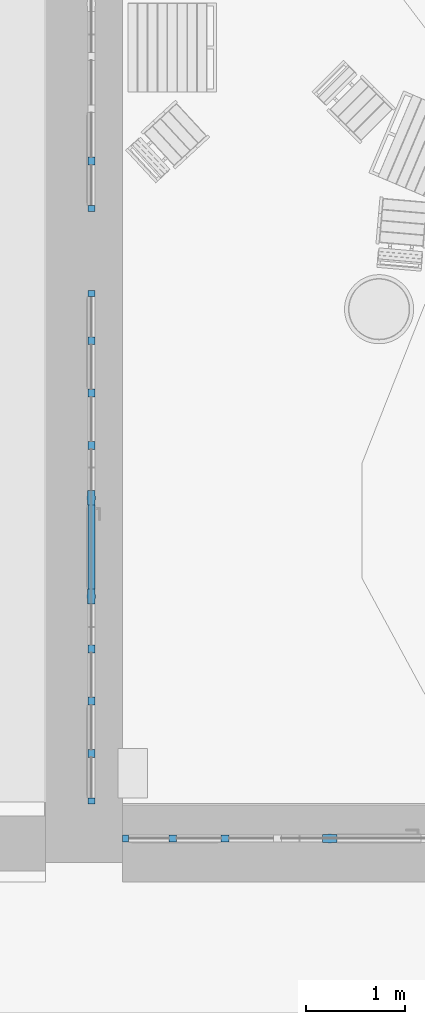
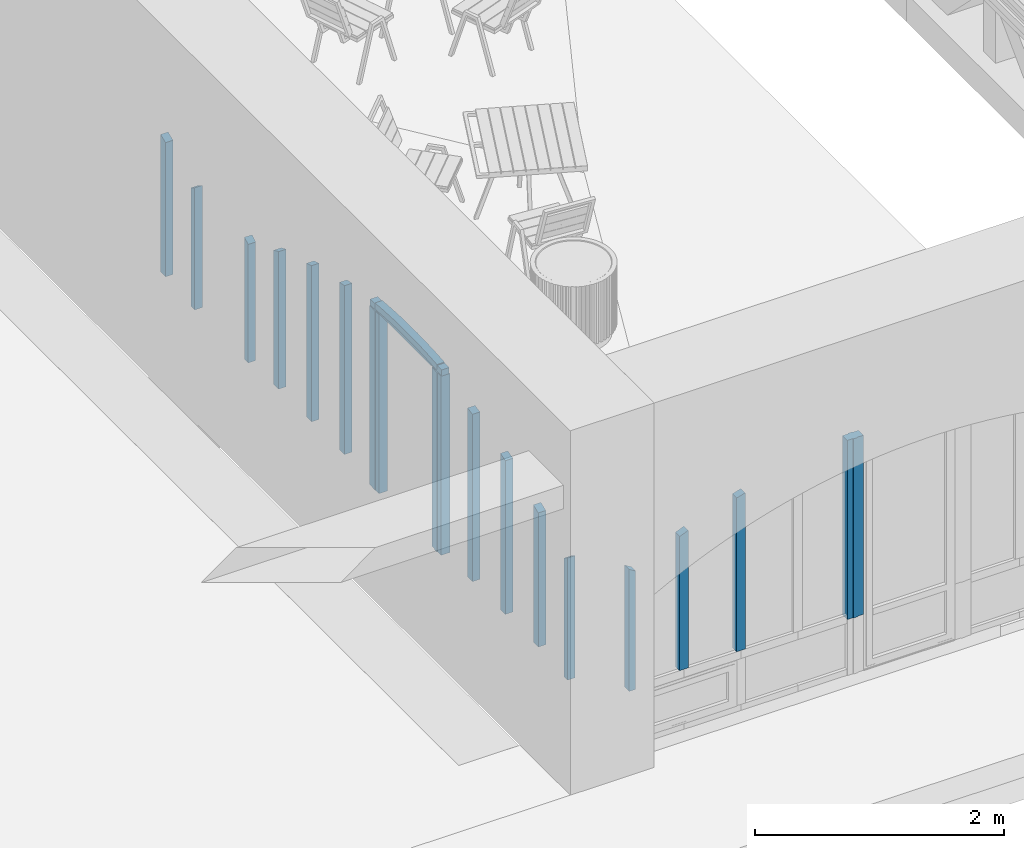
# One storey, part 2 of 88: 18 members, 3 elements without a shape of their own.
"""IFC2X3 building model written with IfcOpenShell, lengths in millimetres."""

from ifc_helpers import new_model, entity, si_unit, converted_unit, derived_unit, direction, frame, frame_2d, origin, place, context, subcontext, project, spatial, polyline, circle_curve, parameter, trimmed, segment, composite_curve, rectangle, outline, extrude, source, transform, mapped, material, type_object, type_shapes, element, aggregate, save


model = new_model("IFC2X3")

# Units and contexts
model_context = context("Model", 3, precision=0.01, world=origin(), true_north=direction((6.123031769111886e-17, 1.0)))
body_context = subcontext(model_context, "Body", "Model", "MODEL_VIEW")
ifc_project = project(units=[si_unit("LENGTHUNIT", "METRE", prefix="MILLI"), si_unit("AREAUNIT", "SQUARE_METRE"), si_unit("VOLUMEUNIT", "CUBIC_METRE"), converted_unit("PLANEANGLEUNIT", "DEGREE", entity("IfcPlaneAngleMeasure", 0.017453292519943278), si_unit("PLANEANGLEUNIT", "RADIAN"), dimensions=[0, 0, 0, 0, 0, 0, 0]), si_unit("MASSUNIT", "GRAM", prefix="KILO"), derived_unit("MASSDENSITYUNIT", [(si_unit("MASSUNIT", "GRAM", prefix="KILO"), 1), (si_unit("LENGTHUNIT", "METRE"), -3)]), derived_unit("IONCONCENTRATIONUNIT", [(si_unit("MASSUNIT", "GRAM", prefix="KILO"), 1), (si_unit("LENGTHUNIT", "METRE"), -3)]), derived_unit("MOMENTOFINERTIAUNIT", [(si_unit("LENGTHUNIT", "METRE"), 4)]), si_unit("TIMEUNIT", "SECOND"), si_unit("FREQUENCYUNIT", "HERTZ"), si_unit("THERMODYNAMICTEMPERATUREUNIT", "DEGREE_CELSIUS"), derived_unit("THERMALTRANSMITTANCEUNIT", [(si_unit("MASSUNIT", "GRAM", prefix="KILO"), 1), (si_unit("THERMODYNAMICTEMPERATUREUNIT", "KELVIN"), -1), (si_unit("TIMEUNIT", "SECOND"), -3)]), derived_unit("THERMALCONDUCTANCEUNIT", [(si_unit("MASSUNIT", "GRAM", prefix="KILO"), 1), (si_unit("THERMODYNAMICTEMPERATUREUNIT", "KELVIN"), -1), (si_unit("TIMEUNIT", "SECOND"), -3), (si_unit("LENGTHUNIT", "METRE"), 1)]), derived_unit("VOLUMETRICFLOWRATEUNIT", [(si_unit("LENGTHUNIT", "METRE", prefix="DECI"), 3), (si_unit("TIMEUNIT", "SECOND"), -1)]), derived_unit("MASSFLOWRATEUNIT", [(si_unit("MASSUNIT", "GRAM", prefix="KILO"), 1), (si_unit("TIMEUNIT", "SECOND"), -1)]), derived_unit("ROTATIONALFREQUENCYUNIT", [(si_unit("TIMEUNIT", "SECOND"), -1)]), si_unit("ELECTRICCURRENTUNIT", "AMPERE"), si_unit("ELECTRICVOLTAGEUNIT", "VOLT"), si_unit("POWERUNIT", "WATT"), si_unit("FORCEUNIT", "NEWTON", prefix="KILO"), si_unit("ILLUMINANCEUNIT", "LUX"), si_unit("LUMINOUSFLUXUNIT", "LUMEN"), si_unit("LUMINOUSINTENSITYUNIT", "CANDELA"), si_unit("ENERGYUNIT", "JOULE"), derived_unit("USERDEFINED", [(si_unit("MASSUNIT", "GRAM", prefix="KILO"), -1), (si_unit("LENGTHUNIT", "METRE"), -2), (si_unit("TIMEUNIT", "SECOND"), 3), (si_unit("LUMINOUSFLUXUNIT", "LUMEN"), 1)]), derived_unit("USERDEFINED", [(si_unit("MASSUNIT", "GRAM", prefix="KILO"), 1), (si_unit("TIMEUNIT", "SECOND"), -3), (si_unit("LENGTHUNIT", "METRE"), 3), (si_unit("ELECTRICCURRENTUNIT", "AMPERE"), -2)]), derived_unit("SOUNDPOWERUNIT", [(si_unit("MASSUNIT", "GRAM", prefix="KILO"), 1), (si_unit("TIMEUNIT", "SECOND"), -3), (si_unit("LENGTHUNIT", "METRE"), 2)]), derived_unit("SOUNDPRESSUREUNIT", [(si_unit("MASSUNIT", "GRAM", prefix="KILO"), 1), (si_unit("LENGTHUNIT", "METRE"), -1), (si_unit("TIMEUNIT", "SECOND"), -2)]), derived_unit("LINEARVELOCITYUNIT", [(si_unit("LENGTHUNIT", "METRE"), 1), (si_unit("TIMEUNIT", "SECOND"), -1)]), si_unit("PRESSUREUNIT", "PASCAL"), derived_unit("USERDEFINED", [(si_unit("MASSUNIT", "GRAM", prefix="KILO"), 1), (si_unit("LENGTHUNIT", "METRE"), -2), (si_unit("TIMEUNIT", "SECOND"), -2)]), derived_unit("LINEARFORCEUNIT", [(si_unit("MASSUNIT", "GRAM", prefix="KILO"), 1), (si_unit("TIMEUNIT", "SECOND"), -2)]), derived_unit("PLANARFORCEUNIT", [(si_unit("MASSUNIT", "GRAM", prefix="KILO"), 1), (si_unit("LENGTHUNIT", "METRE"), -1), (si_unit("TIMEUNIT", "SECOND"), -2)]), derived_unit("SPECIFICHEATCAPACITYUNIT", [(si_unit("THERMODYNAMICTEMPERATUREUNIT", "KELVIN"), -1), (si_unit("LENGTHUNIT", "METRE"), 2), (si_unit("TIMEUNIT", "SECOND"), -2)]), derived_unit("HEATFLUXDENSITYUNIT", [(si_unit("MASSUNIT", "GRAM", prefix="KILO"), 1), (si_unit("TIMEUNIT", "SECOND"), -3)]), derived_unit("HEATINGVALUEUNIT", [(si_unit("LENGTHUNIT", "METRE"), 2), (si_unit("TIMEUNIT", "SECOND"), -2)]), derived_unit("VAPORPERMEABILITYUNIT", [(si_unit("LENGTHUNIT", "METRE"), -1), (si_unit("TIMEUNIT", "SECOND"), 1)]), derived_unit("DYNAMICVISCOSITYUNIT", [(si_unit("MASSUNIT", "GRAM", prefix="KILO"), 1), (si_unit("TIMEUNIT", "SECOND"), -1), (si_unit("LENGTHUNIT", "METRE"), -1)]), derived_unit("THERMALEXPANSIONCOEFFICIENTUNIT", [(si_unit("THERMODYNAMICTEMPERATUREUNIT", "KELVIN"), -1)]), derived_unit("MODULUSOFELASTICITYUNIT", [(si_unit("MASSUNIT", "GRAM", prefix="KILO"), 1), (si_unit("LENGTHUNIT", "METRE"), -1), (si_unit("TIMEUNIT", "SECOND"), -2)]), derived_unit("ISOTHERMALMOISTURECAPACITYUNIT", [(si_unit("MASSUNIT", "GRAM", prefix="KILO"), -1), (si_unit("LENGTHUNIT", "METRE"), 3)]), derived_unit("MOISTUREDIFFUSIVITYUNIT", [(si_unit("TIMEUNIT", "SECOND"), -1), (si_unit("LENGTHUNIT", "METRE"), 2)]), derived_unit("MASSPERLENGTHUNIT", [(si_unit("MASSUNIT", "GRAM", prefix="KILO"), 1), (si_unit("LENGTHUNIT", "METRE"), -1)]), derived_unit("THERMALRESISTANCEUNIT", [(si_unit("MASSUNIT", "GRAM", prefix="KILO"), -1), (si_unit("TIMEUNIT", "SECOND"), 3), (si_unit("THERMODYNAMICTEMPERATUREUNIT", "KELVIN"), 1)]), derived_unit("ACCELERATIONUNIT", [(si_unit("LENGTHUNIT", "METRE"), 1), (si_unit("TIMEUNIT", "SECOND"), -2)]), derived_unit("ANGULARVELOCITYUNIT", [(si_unit("TIMEUNIT", "SECOND"), -1), (si_unit("PLANEANGLEUNIT", "RADIAN"), 1)]), derived_unit("LINEARSTIFFNESSUNIT", [(si_unit("MASSUNIT", "GRAM", prefix="KILO"), 1), (si_unit("TIMEUNIT", "SECOND"), -2)]), derived_unit("WARPINGCONSTANTUNIT", [(si_unit("LENGTHUNIT", "METRE"), 6)]), derived_unit("LINEARMOMENTUNIT", [(si_unit("MASSUNIT", "GRAM", prefix="KILO"), 1), (si_unit("LENGTHUNIT", "METRE"), 1), (si_unit("TIMEUNIT", "SECOND"), -2)]), derived_unit("TORQUEUNIT", [(si_unit("MASSUNIT", "GRAM", prefix="KILO"), 1), (si_unit("LENGTHUNIT", "METRE"), 2), (si_unit("TIMEUNIT", "SECOND"), -2)])], contexts=[model_context])

# Site, building, storey
site_placement = place(None, origin())
site = spatial("IfcSite", under=ifc_project, at=site_placement, Name="Default", CompositionType="ELEMENT")
building_placement = place(site_placement, origin())
building = spatial("IfcBuilding", under=site, at=building_placement, Name="Eesti Rahvusraamatukogu hoone renoveerimise projekteerimistööd", CompositionType="ELEMENT")
storey_placement = place(building_placement, origin())
storey = spatial("IfcBuildingStorey", under=building, at=storey_placement, Name="1. korrus", CompositionType="ELEMENT", Elevation=0.0)

# Curtain wall, members
curtain_wall_type_1 = type_object("IfcCurtainWallType", Name="Curtain Wall:Ak-05", PredefinedType="NOTDEFINED")
curtain_wall_1_placement = place(storey_placement, origin())
curtain_wall_1 = element("IfcCurtainWall", 1, at=curtain_wall_1_placement, inside=storey, type_object=curtain_wall_type_1, Name="Curtain Wall:Ak-05", ObjectType="Curtain Wall:Ak-05")
ifc_material = material(Name="LUMION_dark steel window frames")
member_type_1 = type_object("IfcMemberType", Name="Rectangular Mullion:NEW 60x70mm", PredefinedType="MULLION", material=ifc_material)
shared_shape_1 = source(origin(), body_context, "Body", "SweptSolid", [
    extrude(outline(composite_curve([segment(polyline([(-75.01710683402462, -495.2424237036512), (-15.017106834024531, -495.2424237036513)]), True, "CONTINUOUS"), segment(trimmed(circle_curve(frame_2d((5448.26345993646, -495.24242370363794), x_axis=(-0.9836101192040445, 0.1803084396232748)), 5463.280566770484), [parameter(3.5622212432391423e-13)], [parameter(10.387726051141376)], True, "PARAMETER"), False, "CONTINUOUS"), segment(polyline([(74.52541041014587, 489.83317051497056), (15.508803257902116, 500.65167689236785)]), True, "CONTINUOUS"), segment(trimmed(circle_curve(frame_2d((5448.26345993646, -495.24242370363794), x_axis=(-0.9836101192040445, 0.1803084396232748)), 5523.280566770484), [parameter(3.5622212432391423e-13)], [parameter(10.387726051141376)], True, "PARAMETER"), True, "CONTINUOUS")], self_intersect=False)), frame((-75.01710683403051, -35.0, -495.2424237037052), z_axis=(0.0, 1.0, 0.0), x_axis=(-0.9836101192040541, 0.0, 0.18030843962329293)), (0.0, 0.0, 1.0), 69.99999999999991),
])
type_shapes(member_type_1, [shared_shape_1])
member_1_placement = place(curtain_wall_1_placement, frame((-42905.0, 2890.0, 2327.3219656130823), z_axis=(0.0, -0.9958941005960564, -0.09052591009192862), x_axis=(0.0, -0.09052591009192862, 0.9958941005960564)))
member_1 = element("IfcMember", 2, at=member_1_placement, type_object=member_type_1, material=ifc_material, Name="Rectangular Mullion:NEW 60x70mm", ObjectType="Rectangular Mullion:NEW 60x70mm", context=body_context, shape_type="MappedRepresentation", body=[
    mapped(shared_shape_1, transform((0.0, 0.0, 0.0), scale=1.0)),
])
member_type_2 = type_object("IfcMemberType", Name="Rectangular Mullion:NEW 150x90mm", PredefinedType="MULLION", material=ifc_material)
shared_shape_2 = source(origin(), body_context, "Body", "SweptSolid", [
    extrude(outline(polyline([(40.0, -20.0), (45.0, -20.0), (45.0, 20.0), (40.0, 20.0), (40.0, 75.0), (-40.0, 75.0), (-40.0, 20.0), (-45.0, 20.0), (-45.0, -20.0), (-40.0, -20.0), (-40.0, -75.0), (40.0, -75.0), (40.0, -20.0)])), frame((0.0, 0.0, -1760.0), z_axis=(0.0, 0.0, 1.0), x_axis=(0.0, -1.0, 0.0)), (0.0, 0.0, 1.0), 1759.9999999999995),
])
type_shapes(member_type_2, [shared_shape_2])
member_2_placement = place(curtain_wall_1_placement, frame((-42905.0, 3890.0, 500.0), z_axis=(0.0, 0.0, -1.0), x_axis=(0.0, -1.0, 0.0)))
member_2 = element("IfcMember", 3, at=member_2_placement, type_object=member_type_2, material=ifc_material, Name="Rectangular Mullion:NEW 150x90mm", ObjectType="Rectangular Mullion:NEW 150x90mm", context=body_context, shape_type="MappedRepresentation", body=[
    mapped(shared_shape_2, transform((0.0, 0.0, 0.0), scale=1.0)),
])
member_3_placement = place(curtain_wall_1_placement, frame((-42905.0, 2890.0, 500.0), z_axis=(0.0, 0.0, -1.0), x_axis=(0.0, -1.0, 0.0)))
member_3 = element("IfcMember", 4, at=member_3_placement, type_object=member_type_2, material=ifc_material, Name="Rectangular Mullion:NEW 150x90mm", ObjectType="Rectangular Mullion:NEW 150x90mm", context=body_context, shape_type="MappedRepresentation", body=[
    mapped(shared_shape_2, transform((0.0, 0.0, 0.0), scale=1.0)),
])

# Curtain wall, member
curtain_wall_type_2 = type_object("IfcCurtainWallType", Name="Curtain Wall:Ak-05*", PredefinedType="NOTDEFINED")
curtain_wall_2_placement = place(storey_placement, origin())
curtain_wall_2 = element("IfcCurtainWall", 5, at=curtain_wall_2_placement, inside=storey, type_object=curtain_wall_type_2, Name="Curtain Wall:Ak-05*", ObjectType="Curtain Wall:Ak-05*")
member_type_3 = type_object("IfcMemberType", Name="Rectangular Mullion:NEW 60x70mm", PredefinedType="MULLION", material=ifc_material)
shared_shape_3 = source(origin(), body_context, "Body", "SweptSolid", [
    extrude(outline(polyline([(-590.8870214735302, -30.0), (608.8836344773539, -30.0), (572.8904084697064, 30.0), (-590.8870214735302, 30.0), (-590.8870214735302, -30.0)])), frame((-30.0, -35.0, -590.8870214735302), z_axis=(0.0, 1.0, 0.0), x_axis=(0.0, 0.0, -1.0)), (0.0, 0.0, 1.0), 70.00000000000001),
])
type_shapes(member_type_3, [shared_shape_3])
member_4_placement = place(curtain_wall_2_placement, frame((-42905.0, 6790.0, 500.0), z_axis=(0.0, 0.0, -1.0), x_axis=(0.0, -1.0, 0.0)))
member_4 = element("IfcMember", 6, at=member_4_placement, type_object=member_type_3, material=ifc_material, Name="Rectangular Mullion:NEW 60x70mm", ObjectType="Rectangular Mullion:NEW 60x70mm", context=body_context, shape_type="MappedRepresentation", body=[
    mapped(shared_shape_3, transform((0.0, 0.0, 0.0), scale=1.0)),
])

# Member
member_5_placement = place(curtain_wall_1_placement, frame((-42905.0, 790.0, 500.0), z_axis=(0.0, 0.0, -1.0), x_axis=(0.0, -1.0, 0.0)))
member_5 = element("IfcMember", 7, at=member_5_placement, type_object=member_type_3, material=ifc_material, Name="Rectangular Mullion:NEW 60x70mm", ObjectType="Rectangular Mullion:NEW 60x70mm", context=body_context, shape_type="MappedRepresentation", body=[
    mapped(shared_shape_3, transform((0.0, 0.0, 0.0), scale=1.0)),
])

member_type_4 = type_object("IfcMemberType", Name="Rectangular Mullion:NEW 60x70mm", PredefinedType="MULLION", material=ifc_material)
shared_shape_4 = source(origin(), body_context, "Body", "SweptSolid", [
    extrude(outline(polyline([(-608.8836344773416, -30.0), (590.8870214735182, -30.0), (590.8870214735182, 30.0), (-572.8904084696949, 30.0), (-608.8836344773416, -30.0)])), frame((-30.0, -35.0, -608.8836344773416), z_axis=(0.0, 1.0, 0.0), x_axis=(0.0, 0.0, -1.0)), (0.0, 0.0, 1.0), 70.00000000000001),
])
type_shapes(member_type_4, [shared_shape_4])
member_6_placement = place(curtain_wall_1_placement, frame((-42905.0, 5990.0, 1699.7706559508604), z_axis=(0.0, 0.0, 1.0), x_axis=(0.0, 1.0, 0.0)))
member_6 = element("IfcMember", 8, at=member_6_placement, type_object=member_type_4, material=ifc_material, Name="Rectangular Mullion:NEW 60x70mm", ObjectType="Rectangular Mullion:NEW 60x70mm", context=body_context, shape_type="MappedRepresentation", body=[
    mapped(shared_shape_4, transform((0.0, 0.0, 0.0), scale=1.0)),
])

member_type_5 = type_object("IfcMemberType", Name="Rectangular Mullion:NEW 60x70mm", PredefinedType="MULLION", material=ifc_material)
shared_shape_5 = source(origin(), body_context, "Body", "SweptSolid", [
    extrude(rectangle(XDim=60.0, YDim=70.0, at=frame_2d((0.0, -3.552713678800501e-15), x_axis=(1.0, 0.0))), frame((0.0, 0.0, -1150.0), z_axis=(0.0, 0.0, 1.0), x_axis=(-1.0, 0.0, 0.0)), (0.0, 0.0, 1.0), 1149.9999999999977),
])
type_shapes(member_type_5, [shared_shape_5])
member_7_placement = place(curtain_wall_1_placement, frame((-42905.0, 2815.0, 2290.0), z_axis=(0.0, -1.0, 0.0), x_axis=(0.0, 0.0, 1.0)))
member_7 = element("IfcMember", 9, at=member_7_placement, type_object=member_type_5, material=ifc_material, Name="Rectangular Mullion:NEW 60x70mm", ObjectType="Rectangular Mullion:NEW 60x70mm", context=body_context, shape_type="MappedRepresentation", body=[
    mapped(shared_shape_5, transform((0.0, 0.0, 0.0), scale=1.0)),
])

member_type_6 = type_object("IfcMemberType", Name="Rectangular Mullion:NEW 80x70mm", PredefinedType="MULLION", material=ifc_material)
shared_shape_6 = source(origin(), body_context, "Body", "SweptSolid", [
    extrude(outline(composite_curve([segment(polyline([(-802.4490834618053, -44.54077965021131), (515.2279674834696, -44.54077965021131)]), True, "CONTINUOUS"), segment(trimmed(circle_curve(frame_2d((-4515.729650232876, 2085.4592203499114), x_axis=(0.8822747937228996, -0.4707347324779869)), 5463.280566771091), [parameter(5.135238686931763)], [parameter(5.847495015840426)], True, "PARAMETER"), True, "CONTINUOUS"), segment(trimmed(circle_curve(frame_2d((-4515.729650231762, 2085.4592203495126), x_axis=(0.9256428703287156, -0.3783983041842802)), 5463.280566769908), [parameter(0.0)], [parameter(0.1958264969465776)], True, "PARAMETER"), True, "CONTINUOUS"), segment(polyline([(548.3531444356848, 35.45922034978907), (-802.4490834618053, 35.45922034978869)]), True, "CONTINUOUS"), segment(polyline([(-802.4490834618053, 35.45922034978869), (-802.4490834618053, -44.54077965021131)]), True, "CONTINUOUS")], self_intersect=False)), frame((-4.540779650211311, -35.0, -802.4490834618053), z_axis=(0.0, 1.0, 0.0), x_axis=(0.0, 0.0, -1.0)), (0.0, 0.0, 1.0), 69.99999999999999),
])
type_shapes(member_type_6, [shared_shape_6])
member_8_placement = place(curtain_wall_2_placement, frame((-42905.0, 7300.0, 540.0), z_axis=(0.0, 0.0, -1.0), x_axis=(0.0, -1.0, 0.0)))
member_8 = element("IfcMember", 10, at=member_8_placement, type_object=member_type_6, material=ifc_material, Name="Rectangular Mullion:NEW 80x70mm", ObjectType="Rectangular Mullion:NEW 80x70mm", context=body_context, shape_type="MappedRepresentation", body=[
    mapped(shared_shape_6, transform((0.0, 0.0, 0.0), scale=1.0)),
])

aggregate(curtain_wall_2, [member_4, member_8])

member_9_placement = place(curtain_wall_1_placement, frame((-42905.0, 1300.0, 540.0), z_axis=(0.0, 0.0, -1.0), x_axis=(0.0, -1.0, 0.0)))
member_9 = element("IfcMember", 11, at=member_9_placement, type_object=member_type_6, material=ifc_material, Name="Rectangular Mullion:NEW 80x70mm", ObjectType="Rectangular Mullion:NEW 80x70mm", context=body_context, shape_type="MappedRepresentation", body=[
    mapped(shared_shape_6, transform((0.0, 0.0, 0.0), scale=1.0)),
])

member_type_7 = type_object("IfcMemberType", Name="Rectangular Mullion:NEW 80x70mm", PredefinedType="MULLION", material=ifc_material)
shared_shape_7 = source(origin(), body_context, "Body", "SweptSolid", [
    extrude(outline(composite_curve([segment(polyline([(-914.4623251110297, -43.389290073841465), (595.9947117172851, -43.389290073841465)]), True, "CONTINUOUS"), segment(trimmed(circle_curve(frame_2d((-4627.7428918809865, 1556.6107099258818), x_axis=(0.9256428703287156, -0.37839830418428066)), 5463.280566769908), [parameter(5.204987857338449)], [parameter(5.828569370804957)], True, "PARAMETER"), True, "CONTINUOUS"), segment(trimmed(circle_curve(frame_2d((-4627.74289188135, 1556.6107099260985), x_axis=(0.9592847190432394, -0.28244083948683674)), 5463.280566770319), [parameter(0.0)], [parameter(0.25187197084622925)], True, "PARAMETER"), True, "CONTINUOUS"), segment(polyline([(619.8312668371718, 36.61070992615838), (-914.4623251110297, 36.610709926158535)]), True, "CONTINUOUS"), segment(polyline([(-914.4623251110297, 36.610709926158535), (-914.4623251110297, -43.389290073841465)]), True, "CONTINUOUS")], self_intersect=False)), frame((-3.389290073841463, -35.0, -914.4623251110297), z_axis=(0.0, 1.0, 0.0), x_axis=(0.0, 0.0, -1.0)), (0.0, 0.0, 1.0), 69.99999999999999),
])
type_shapes(member_type_7, [shared_shape_7])
member_10_placement = place(curtain_wall_1_placement, frame((-42905.0, 1830.0, 540.0), z_axis=(0.0, 0.0, -1.0), x_axis=(0.0, -1.0, 0.0)))
member_10 = element("IfcMember", 12, at=member_10_placement, type_object=member_type_7, material=ifc_material, Name="Rectangular Mullion:NEW 80x70mm", ObjectType="Rectangular Mullion:NEW 80x70mm", context=body_context, shape_type="MappedRepresentation", body=[
    mapped(shared_shape_7, transform((0.0, 0.0, 0.0), scale=1.0)),
])

member_type_8 = type_object("IfcMemberType", Name="Rectangular Mullion:NEW 80x70mm", PredefinedType="MULLION", material=ifc_material)
shared_shape_8 = source(origin(), body_context, "Body", "SweptSolid", [
    extrude(outline(composite_curve([segment(polyline([(-991.582057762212, -42.23780049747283), (652.61201854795, -42.23780049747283)]), True, "CONTINUOUS"), segment(trimmed(circle_curve(frame_2d((-4704.862624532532, 1027.7621995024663), x_axis=(0.9592847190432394, -0.28244083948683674)), 5463.280566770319), [parameter(5.111376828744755)], [parameter(5.658307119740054)], True, "PARAMETER"), True, "CONTINUOUS"), segment(trimmed(circle_curve(frame_2d((-4704.862624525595, 1027.7621995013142), x_axis=(0.9824581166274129, -0.18648337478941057)), 5463.2805667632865), [parameter(0.0)], [parameter(0.3073932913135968)], True, "PARAMETER"), True, "CONTINUOUS"), segment(polyline([(667.9703852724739, 37.76219950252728), (-991.582057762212, 37.76219950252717)]), True, "CONTINUOUS"), segment(polyline([(-991.582057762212, 37.76219950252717), (-991.582057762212, -42.23780049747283)]), True, "CONTINUOUS")], self_intersect=False)), frame((-2.237800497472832, -35.0, -991.582057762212), z_axis=(0.0, 1.0, 0.0), x_axis=(0.0, 0.0, -1.0)), (0.0, 0.0, 1.0), 70.00000000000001),
])
type_shapes(member_type_8, [shared_shape_8])
member_11_placement = place(curtain_wall_1_placement, frame((-42905.0, 2360.0, 540.0), z_axis=(0.0, 0.0, -1.0), x_axis=(0.0, -1.0, 0.0)))
member_11 = element("IfcMember", 13, at=member_11_placement, type_object=member_type_8, material=ifc_material, Name="Rectangular Mullion:NEW 80x70mm", ObjectType="Rectangular Mullion:NEW 80x70mm", context=body_context, shape_type="MappedRepresentation", body=[
    mapped(shared_shape_8, transform((0.0, 0.0, 0.0), scale=1.0)),
])

member_type_9 = type_object("IfcMemberType", Name="Rectangular Mullion:NEW 80x70mm", PredefinedType="MULLION", material=ifc_material)
shared_shape_9 = source(origin(), body_context, "Body", "SweptSolid", [
    extrude(outline(composite_curve([segment(polyline([(-991.5820577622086, -37.76219950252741), (667.9703852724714, -37.76219950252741)]), True, "CONTINUOUS"), segment(trimmed(circle_curve(frame_2d((-4704.862624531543, -1027.7621995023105), x_axis=(0.9891368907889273, 0.14699731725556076)), 5463.280566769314), [parameter(1.9872788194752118)], [parameter(2.294672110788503)], True, "PARAMETER"), True, "CONTINUOUS"), segment(trimmed(circle_curve(frame_2d((-4704.862624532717, -1027.7621995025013), x_axis=(0.9824581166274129, 0.18648337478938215)), 5463.280566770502), [parameter(0.0)], [parameter(0.546930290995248)], True, "PARAMETER"), True, "CONTINUOUS"), segment(polyline([(652.6120185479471, 42.23780049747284), (-991.5820577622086, 42.23780049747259)]), True, "CONTINUOUS"), segment(polyline([(-991.5820577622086, 42.23780049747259), (-991.5820577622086, -37.76219950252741)]), True, "CONTINUOUS")], self_intersect=False)), frame((2.237800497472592, -35.0, -991.5820577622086), z_axis=(0.0, 1.0, 0.0), x_axis=(0.0, 0.0, -1.0)), (0.0, 0.0, 1.0), 69.99999999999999),
])
type_shapes(member_type_9, [shared_shape_9])
member_12_placement = place(curtain_wall_1_placement, frame((-42905.0, 4420.0, 540.0), z_axis=(0.0, 0.0, -1.0), x_axis=(0.0, -1.0, 0.0)))
member_12 = element("IfcMember", 14, at=member_12_placement, type_object=member_type_9, material=ifc_material, Name="Rectangular Mullion:NEW 80x70mm", ObjectType="Rectangular Mullion:NEW 80x70mm", context=body_context, shape_type="MappedRepresentation", body=[
    mapped(shared_shape_9, transform((0.0, 0.0, 0.0), scale=1.0)),
])

member_type_10 = type_object("IfcMemberType", Name="Rectangular Mullion:NEW 80x70mm", PredefinedType="MULLION", material=ifc_material)
shared_shape_10 = source(origin(), body_context, "Body", "SweptSolid", [
    extrude(outline(composite_curve([segment(polyline([(-914.4623251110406, -36.610709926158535), (619.8312668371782, -36.610709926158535)]), True, "CONTINUOUS"), segment(trimmed(circle_curve(frame_2d((-4627.742891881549, -1556.6107099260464), x_axis=(0.9824581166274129, 0.18648337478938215)), 5463.280566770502), [parameter(5.406435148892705)], [parameter(5.658307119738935)], True, "PARAMETER"), True, "CONTINUOUS"), segment(trimmed(circle_curve(frame_2d((-4627.742891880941, -1556.6107099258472), x_axis=(0.9592847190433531, 0.28244083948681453)), 5463.280566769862), [parameter(0.0)], [parameter(0.6235815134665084)], True, "PARAMETER"), True, "CONTINUOUS"), segment(polyline([(595.9947117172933, 43.38929007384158), (-914.4623251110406, 43.389290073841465)]), True, "CONTINUOUS"), segment(polyline([(-914.4623251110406, 43.389290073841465), (-914.4623251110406, -36.610709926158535)]), True, "CONTINUOUS")], self_intersect=False)), frame((3.389290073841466, -35.0, -914.4623251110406), z_axis=(0.0, 1.0, 0.0), x_axis=(0.0, 0.0, -1.0)), (0.0, 0.0, 1.0), 69.99999999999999),
])
type_shapes(member_type_10, [shared_shape_10])
member_13_placement = place(curtain_wall_1_placement, frame((-42905.0, 4950.0, 540.0), z_axis=(0.0, 0.0, -1.0), x_axis=(0.0, -1.0, 0.0)))
member_13 = element("IfcMember", 15, at=member_13_placement, type_object=member_type_10, material=ifc_material, Name="Rectangular Mullion:NEW 80x70mm", ObjectType="Rectangular Mullion:NEW 80x70mm", context=body_context, shape_type="MappedRepresentation", body=[
    mapped(shared_shape_10, transform((0.0, 0.0, 0.0), scale=1.0)),
])

member_type_11 = type_object("IfcMemberType", Name="Rectangular Mullion:NEW 80x70mm", PredefinedType="MULLION", material=ifc_material)
shared_shape_11 = source(origin(), body_context, "Body", "SweptSolid", [
    extrude(outline(composite_curve([segment(polyline([(-802.4490834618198, -35.45922034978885), (548.3531444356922, -35.45922034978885)]), True, "CONTINUOUS"), segment(trimmed(circle_curve(frame_2d((-4515.72965023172, -2085.459220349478), x_axis=(0.9592847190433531, 0.28244083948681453)), 5463.280566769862), [parameter(5.63274287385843)], [parameter(5.828569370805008)], True, "PARAMETER"), True, "CONTINUOUS"), segment(trimmed(circle_curve(frame_2d((-4515.729650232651, -2085.4592203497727), x_axis=(0.9256428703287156, 0.37839830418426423)), 5463.280566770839), [parameter(0.0)], [parameter(0.7122563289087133)], True, "PARAMETER"), True, "CONTINUOUS"), segment(polyline([(515.2279674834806, 44.54077965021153), (-802.4490834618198, 44.54077965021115)]), True, "CONTINUOUS"), segment(polyline([(-802.4490834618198, 44.54077965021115), (-802.4490834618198, -35.45922034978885)]), True, "CONTINUOUS")], self_intersect=False)), frame((4.540779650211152, -35.0, -802.4490834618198), z_axis=(0.0, 1.0, 0.0), x_axis=(0.0, 0.0, -1.0)), (0.0, 0.0, 1.0), 70.00000000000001),
])
type_shapes(member_type_11, [shared_shape_11])
member_14_placement = place(curtain_wall_1_placement, frame((-42905.0, 5480.0, 540.0), z_axis=(0.0, 0.0, -1.0), x_axis=(0.0, -1.0, 0.0)))
member_14 = element("IfcMember", 16, at=member_14_placement, type_object=member_type_11, material=ifc_material, Name="Rectangular Mullion:NEW 80x70mm", ObjectType="Rectangular Mullion:NEW 80x70mm", context=body_context, shape_type="MappedRepresentation", body=[
    mapped(shared_shape_11, transform((0.0, 0.0, 0.0), scale=1.0)),
])

aggregate(curtain_wall_1, [member_1, member_2, member_3, member_5, member_6, member_7, member_9, member_10, member_11, member_12, member_13, member_14])

# Curtain wall, members
curtain_wall_3_placement = place(storey_placement, origin())
curtain_wall_3 = element("IfcCurtainWall", 17, at=curtain_wall_3_placement, inside=storey, type_object=curtain_wall_type_1, Name="Curtain Wall:Ak-05", ObjectType="Curtain Wall:Ak-05")
member_type_12 = type_object("IfcMemberType", Name="Rectangular Mullion:NEW 150x90mm", PredefinedType="MULLION", material=ifc_material)
shared_shape_12 = source(origin(), body_context, "Body", "SweptSolid", [
    extrude(outline(polyline([(20.0, -40.0), (75.0, -40.0), (75.0, 40.0), (20.0, 40.0), (20.0, 45.0), (-20.0, 45.0), (-20.0, 40.0), (-75.0, 40.0), (-75.0, -40.0), (-20.0, -40.0), (-20.0, -45.0), (20.0, -45.0), (20.0, -40.0)])), frame((0.0, 0.0, -1760.0), z_axis=(0.0, 0.0, 1.0), x_axis=(-1.0, 0.0, 0.0)), (0.0, 0.0, 1.0), 1759.9999999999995),
])
type_shapes(member_type_12, [shared_shape_12])
member_15_placement = place(curtain_wall_3_placement, frame((-40490.0, 440.0, 500.0), z_axis=(0.0, 0.0, -1.0), x_axis=(-1.0, 0.0, 0.0)))
member_15 = element("IfcMember", 18, at=member_15_placement, type_object=member_type_12, material=ifc_material, Name="Rectangular Mullion:NEW 150x90mm", ObjectType="Rectangular Mullion:NEW 150x90mm", context=body_context, shape_type="MappedRepresentation", body=[
    mapped(shared_shape_12, transform((0.0, 0.0, 0.0), scale=1.0)),
])
member_type_13 = type_object("IfcMemberType", Name="Rectangular Mullion:NEW 60x70mm", PredefinedType="MULLION", material=ifc_material)
shared_shape_13 = source(origin(), body_context, "Body", "SweptSolid", [
    extrude(outline(polyline([(-590.8870214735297, -30.0), (608.8836344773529, -30.0), (572.8904084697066, 30.0), (-590.8870214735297, 30.0), (-590.8870214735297, -30.0)])), frame((-30.0, -35.0, -590.8870214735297), z_axis=(0.0, 1.0, 0.0), x_axis=(0.0, 0.0, -1.0)), (0.0, 0.0, 1.0), 69.99999999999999),
])
type_shapes(member_type_13, [shared_shape_13])
member_16_placement = place(curtain_wall_3_placement, frame((-42590.0, 440.0, 500.0), z_axis=(0.0, 0.0, -1.0), x_axis=(-1.0, 0.0, 0.0)))
member_16 = element("IfcMember", 19, at=member_16_placement, type_object=member_type_13, material=ifc_material, Name="Rectangular Mullion:NEW 60x70mm", ObjectType="Rectangular Mullion:NEW 60x70mm", context=body_context, shape_type="MappedRepresentation", body=[
    mapped(shared_shape_13, transform((0.0, 0.0, 0.0), scale=1.0)),
])
member_type_14 = type_object("IfcMemberType", Name="Rectangular Mullion:NEW 80x70mm", PredefinedType="MULLION", material=ifc_material)
shared_shape_14 = source(origin(), body_context, "Body", "SweptSolid", [
    extrude(outline(composite_curve([segment(polyline([(-802.4490834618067, -44.54077965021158), (515.22796748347, -44.54077965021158)]), True, "CONTINUOUS"), segment(trimmed(circle_curve(frame_2d((-4515.729650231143, 2085.45922034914), x_axis=(0.8822747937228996, -0.47073473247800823)), 5463.280566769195), [parameter(5.135238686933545)], [parameter(5.847495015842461)], True, "PARAMETER"), True, "CONTINUOUS"), segment(trimmed(circle_curve(frame_2d((-4515.729650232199, 2085.45922034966), x_axis=(0.9256428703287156, -0.3783983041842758)), 5463.280566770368), [parameter(0.0)], [parameter(0.19582649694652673)], True, "PARAMETER"), True, "CONTINUOUS"), segment(polyline([(548.3531444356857, 35.45922034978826), (-802.4490834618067, 35.45922034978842)]), True, "CONTINUOUS"), segment(polyline([(-802.4490834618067, 35.45922034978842), (-802.4490834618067, -44.54077965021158)]), True, "CONTINUOUS")], self_intersect=False)), frame((-4.540779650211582, -35.0, -802.4490834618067), z_axis=(0.0, 1.0, 0.0), x_axis=(0.0, 0.0, -1.0)), (0.0, 0.0, 1.0), 70.00000000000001),
])
type_shapes(member_type_14, [shared_shape_14])
member_17_placement = place(curtain_wall_3_placement, frame((-42080.0, 440.0, 540.0), z_axis=(0.0, 0.0, -1.0), x_axis=(-1.0, 0.0, 0.0)))
member_17 = element("IfcMember", 20, at=member_17_placement, type_object=member_type_14, material=ifc_material, Name="Rectangular Mullion:NEW 80x70mm", ObjectType="Rectangular Mullion:NEW 80x70mm", context=body_context, shape_type="MappedRepresentation", body=[
    mapped(shared_shape_14, transform((0.0, 0.0, 0.0), scale=1.0)),
])
member_type_15 = type_object("IfcMemberType", Name="Rectangular Mullion:NEW 80x70mm", PredefinedType="MULLION", material=ifc_material)
shared_shape_15 = source(origin(), body_context, "Body", "SweptSolid", [
    extrude(outline(composite_curve([segment(polyline([(-914.4623251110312, -43.38929007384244), (595.9947117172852, -43.38929007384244)]), True, "CONTINUOUS"), segment(trimmed(circle_curve(frame_2d((-4627.742891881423, 1556.6107099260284), x_axis=(0.9256428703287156, -0.37839830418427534)), 5463.28056677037), [parameter(5.204987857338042)], [parameter(5.828569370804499)], True, "PARAMETER"), True, "CONTINUOUS"), segment(trimmed(circle_curve(frame_2d((-4627.74289188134, 1556.6107099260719), x_axis=(0.9592847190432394, -0.28244083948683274)), 5463.280566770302), [parameter(0.0)], [parameter(0.25187197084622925)], True, "PARAMETER"), True, "CONTINUOUS"), segment(polyline([(619.8312668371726, 36.610709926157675), (-914.4623251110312, 36.61070992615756)]), True, "CONTINUOUS"), segment(polyline([(-914.4623251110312, 36.61070992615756), (-914.4623251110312, -43.38929007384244)]), True, "CONTINUOUS")], self_intersect=False)), frame((-3.3892900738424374, -35.0, -914.4623251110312), z_axis=(0.0, 1.0, 0.0), x_axis=(0.0, 0.0, -1.0)), (0.0, 0.0, 1.0), 70.00000000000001),
])
type_shapes(member_type_15, [shared_shape_15])
member_18_placement = place(curtain_wall_3_placement, frame((-41550.0, 440.0, 540.0), z_axis=(0.0, 0.0, -1.0), x_axis=(-1.0, 0.0, 0.0)))
member_18 = element("IfcMember", 21, at=member_18_placement, type_object=member_type_15, material=ifc_material, Name="Rectangular Mullion:NEW 80x70mm", ObjectType="Rectangular Mullion:NEW 80x70mm", context=body_context, shape_type="MappedRepresentation", body=[
    mapped(shared_shape_15, transform((0.0, 0.0, 0.0), scale=1.0)),
])
aggregate(curtain_wall_3, [member_15, member_16, member_17, member_18])

save(model, "model.ifc")
